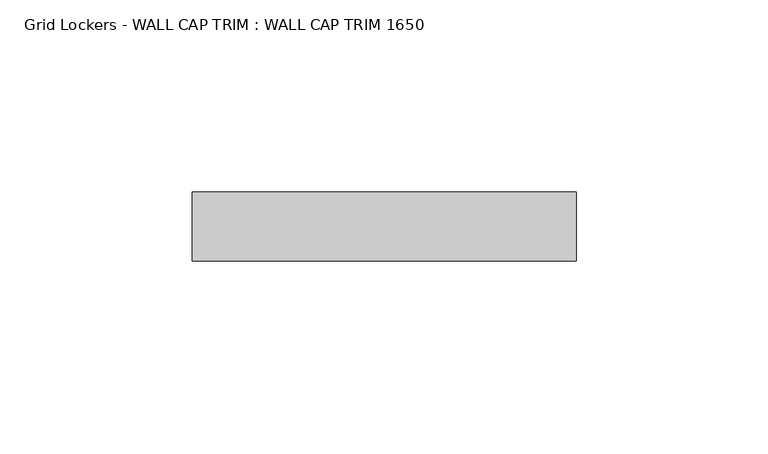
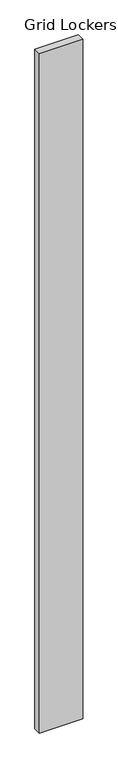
"""IFC4 building model written with IfcOpenShell, lengths in millimetres: furniture geometry, Grid Lockers - WALL CAP TRIM : WALL CAP TRIM 1650."""

from ifc_helpers import new_model, si_unit, origin, origin_with_axes, place, context, project, spatial, polyline, outline, extrude, source, transform, mapped, element, save


def grid_lockers_wall_cap_trim_wall_cap_trim_1650_6f5f1235(model_context):
    return source(origin(), model_context, "Body", "SweptSolid", [
        extrude(outline(polyline([(100.0, -18.0), (0.0, -18.0), (0.0, 0.0), (100.0, 0.0), (100.0, -18.0)])), origin_with_axes(), (0.0, 0.0, 1.0), 1650.0),
    ])


if __name__ == "__main__":
    model = new_model("IFC4")
    model_context = context("Model", 3, world=origin())
    ifc_project = project(units=[si_unit("LENGTHUNIT", "METRE", prefix="MILLI")], contexts=[model_context])
    site = spatial("IfcSite", under=ifc_project)
    building = spatial("IfcBuilding", under=site)
    placement = place(None, origin())
    grid_lockers_wall_cap_trim_wall_cap_trim_1650_shape = grid_lockers_wall_cap_trim_wall_cap_trim_1650_6f5f1235(model_context)
    element("IfcFurniture", 1, ObjectType="Grid Lockers - WALL CAP TRIM : WALL CAP TRIM 1650", at=placement, inside=building, context=model_context, shape_type="MappedRepresentation", body=[
        mapped(grid_lockers_wall_cap_trim_wall_cap_trim_1650_shape, transform((0.0, 0.0, 0.0), x_axis=(1.0, 0.0, 0.0), y_axis=(0.0, 1.0, 0.0), z_axis=(0.0, 0.0, 1.0))),
    ])
    save(model, "model.ifc")
